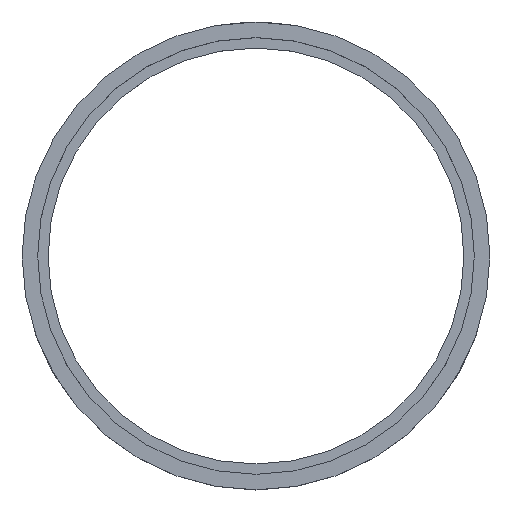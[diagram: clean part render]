
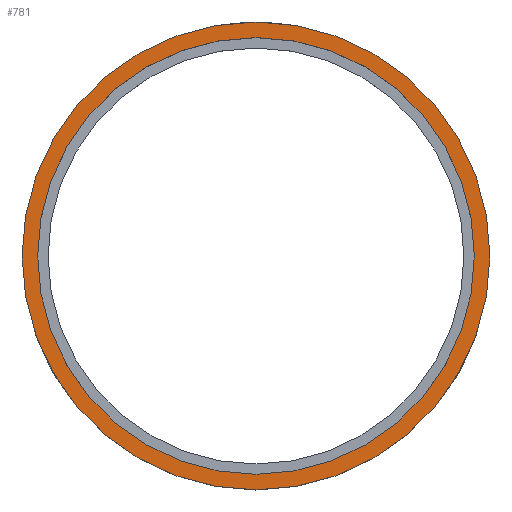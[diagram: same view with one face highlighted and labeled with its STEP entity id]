
A CAD part, top view. The second image highlights one B-rep face of the part: STEP entity #781.
In plain terms, the highlighted planar face has unit normal (0, 0, 1).
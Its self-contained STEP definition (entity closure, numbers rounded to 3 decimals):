
#38 = PLANE ( 'NONE',  #610 ) ;
#51 = DIRECTION ( 'NONE',  ( 1., 0., 0. ) ) ;
#55 = AXIS2_PLACEMENT_3D ( 'NONE', #724, #587, #864 ) ;
#96 = DIRECTION ( 'NONE',  ( -1., 0., 0. ) ) ;
#106 = FACE_BOUND ( 'NONE', #730, .T. ) ;
#121 = CARTESIAN_POINT ( 'NONE',  ( 0., 0., 0. ) ) ;
#134 = DIRECTION ( 'NONE',  ( 1., 0., 0. ) ) ;
#170 = AXIS2_PLACEMENT_3D ( 'NONE', #477, #764, #417 ) ;
#178 = EDGE_CURVE ( 'NONE', #543, #606, #395, .T. ) ;
#193 = CARTESIAN_POINT ( 'NONE',  ( -27., 0., 0. ) ) ;
#205 = VERTEX_POINT ( 'NONE', #193 ) ;
#224 = AXIS2_PLACEMENT_3D ( 'NONE', #911, #334, #134 ) ;
#229 = CARTESIAN_POINT ( 'NONE',  ( 27., 0., 0. ) ) ;
#252 = ORIENTED_EDGE ( 'NONE', *, *, #178, .F. ) ;
#292 = VERTEX_POINT ( 'NONE', #229 ) ;
#301 = ORIENTED_EDGE ( 'NONE', *, *, #918, .T. ) ;
#334 = DIRECTION ( 'NONE',  ( 0., 0., 1. ) ) ;
#392 = CARTESIAN_POINT ( 'NONE',  ( 0., 27., 0. ) ) ;
#395 = CIRCLE ( 'NONE', #224, 25.2 ) ;
#407 = DIRECTION ( 'NONE',  ( 0., 0., 1. ) ) ;
#417 = DIRECTION ( 'NONE',  ( 1., 0., 0. ) ) ;
#456 = FACE_OUTER_BOUND ( 'NONE', #795, .T. ) ;
#477 = CARTESIAN_POINT ( 'NONE',  ( 0., 0., 0. ) ) ;
#533 = ORIENTED_EDGE ( 'NONE', *, *, #616, .F. ) ;
#543 = VERTEX_POINT ( 'NONE', #772 ) ;
#579 = CARTESIAN_POINT ( 'NONE',  ( 25.2, 0., 0. ) ) ;
#587 = DIRECTION ( 'NONE',  ( 0., 0., 1. ) ) ;
#606 = VERTEX_POINT ( 'NONE', #579 ) ;
#610 = AXIS2_PLACEMENT_3D ( 'NONE', #392, #740, #96 ) ;
#616 = EDGE_CURVE ( 'NONE', #606, #543, #818, .T. ) ;
#717 = AXIS2_PLACEMENT_3D ( 'NONE', #121, #407, #51 ) ;
#724 = CARTESIAN_POINT ( 'NONE',  ( 0., 0., 0. ) ) ;
#730 = EDGE_LOOP ( 'NONE', ( #533, #252 ) ) ;
#740 = DIRECTION ( 'NONE',  ( 0., 0., -1. ) ) ;
#745 = CIRCLE ( 'NONE', #717, 27. ) ;
#764 = DIRECTION ( 'NONE',  ( 0., 0., 1. ) ) ;
#772 = CARTESIAN_POINT ( 'NONE',  ( -25.2, 0., 0. ) ) ;
#776 = CIRCLE ( 'NONE', #170, 27. ) ;
#781 = ADVANCED_FACE ( 'NONE', ( #106, #456 ), #38, .F. ) ;
#795 = EDGE_LOOP ( 'NONE', ( #301, #887 ) ) ;
#818 = CIRCLE ( 'NONE', #55, 25.2 ) ;
#825 = EDGE_CURVE ( 'NONE', #205, #292, #776, .T. ) ;
#864 = DIRECTION ( 'NONE',  ( 1., 0., 0. ) ) ;
#887 = ORIENTED_EDGE ( 'NONE', *, *, #825, .T. ) ;
#911 = CARTESIAN_POINT ( 'NONE',  ( 0., 0., 0. ) ) ;
#918 = EDGE_CURVE ( 'NONE', #292, #205, #745, .T. ) ;
